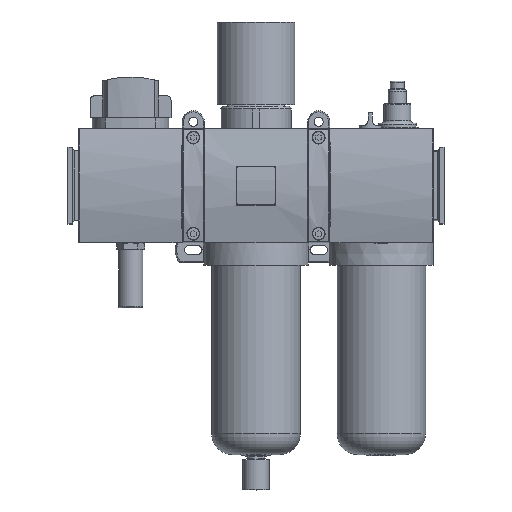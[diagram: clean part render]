
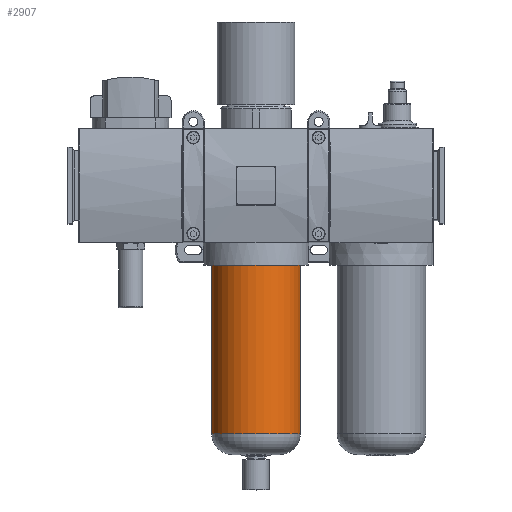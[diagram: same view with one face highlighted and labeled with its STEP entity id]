
A CAD part, top view. The second image highlights one B-rep face of the part: STEP entity #2907.
In plain terms, the highlighted cylindrical face has radius 31.75 mm (diameter 63.5 mm), a full revolution.
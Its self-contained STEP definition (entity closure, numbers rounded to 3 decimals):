
#2907 = ADVANCED_FACE( '', ( #6027, #6028 ), #6029, .T. );
#6027 = FACE_OUTER_BOUND( '', #9362, .T. );
#6028 = FACE_OUTER_BOUND( '', #9363, .T. );
#6029 = CYLINDRICAL_SURFACE( '', #9364, 31.75 );
#9362 = EDGE_LOOP( '', ( #16711 ) );
#9363 = EDGE_LOOP( '', ( #16712 ) );
#9364 = AXIS2_PLACEMENT_3D( '', #16713, #16714, #16715 );
#16711 = ORIENTED_EDGE( '', *, *, #19268, .F. );
#16712 = ORIENTED_EDGE( '', *, *, #21618, .T. );
#16713 = CARTESIAN_POINT( '', ( 0., -136.7, 0. ) );
#16714 = DIRECTION( '', ( 0., 1., 0. ) );
#16715 = DIRECTION( '', ( 0., 0., -1. ) );
#19268 = EDGE_CURVE( '', #22888, #22888, #22889, .T. );
#21618 = EDGE_CURVE( '', #26433, #26433, #26434, .T. );
#22888 = VERTEX_POINT( '', #28041 );
#22889 = CIRCLE( '', #28042, 31.75 );
#26433 = VERTEX_POINT( '', #33369 );
#26434 = CIRCLE( '', #33370, 31.75 );
#28041 = CARTESIAN_POINT( '', ( 0., -121.1, -31.75 ) );
#28042 = AXIS2_PLACEMENT_3D( '', #34780, #34781, #34782 );
#33369 = CARTESIAN_POINT( '', ( 0., 0., -31.75 ) );
#33370 = AXIS2_PLACEMENT_3D( '', #37484, #37485, #37486 );
#34780 = CARTESIAN_POINT( '', ( 0., -121.1, 0. ) );
#34781 = DIRECTION( '', ( 0., -1., 0. ) );
#34782 = DIRECTION( '', ( 0., 0., -1. ) );
#37484 = CARTESIAN_POINT( '', ( 0., 0., 0. ) );
#37485 = DIRECTION( '', ( 0., -1., 0. ) );
#37486 = DIRECTION( '', ( 0., 0., -1. ) );
